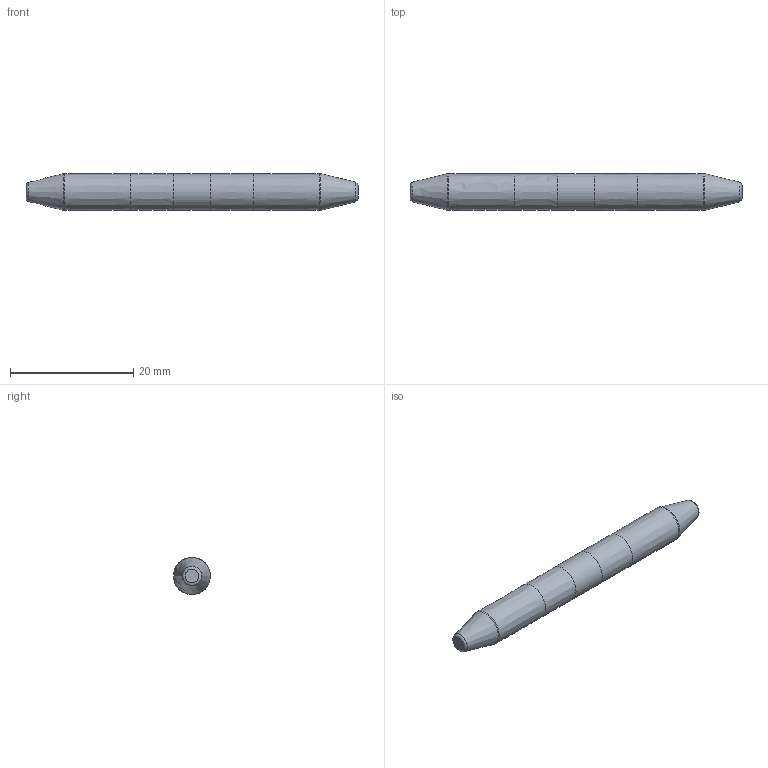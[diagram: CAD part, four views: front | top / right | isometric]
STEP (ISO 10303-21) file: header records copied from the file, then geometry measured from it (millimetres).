
FILE_DESCRIPTION ((), '1');
FILE_NAME ('C:\Users\tprototype\Desktop\TeslaGen Project\TeslaGen-v1 CAD Package\CNC Parts\Spark Gap\Tungsten Electrodes\long_Electrode.stp', '2016-11-22T17:43:45', ('Unknown'), ('Unknown'), 'HarmonyWare STEP v1.7.11', 'HarmonyWare Translators', '');
FILE_SCHEMA (('CONFIG_CONTROL_DESIGN'));
Length unit declared in the file: millimetre
Products named in the file (1): product-name: product-name
Bounding box: 53.9 x 6 x 6 mm (x, y, z)
Volume: 1383.1 mm3; surface area: 975.9 mm2
Topology: 1 solids, 1 shells, 13 faces, 23 edges, 12 vertices
Faces by surface type: bspline 13
Entity records: 678 total; most frequent: CARTESIAN_POINT 448, ORIENTED_EDGE 46, EDGE_CURVE 23, EDGE_LOOP 13, FACE_OUTER_BOUND 13, ADVANCED_FACE 13, VERTEX_POINT 12, PERSON 8
